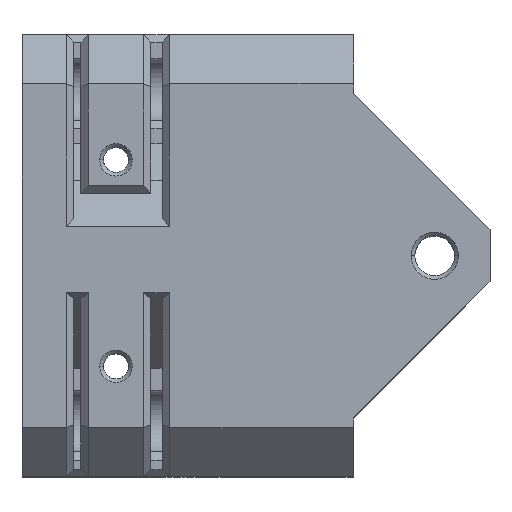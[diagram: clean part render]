
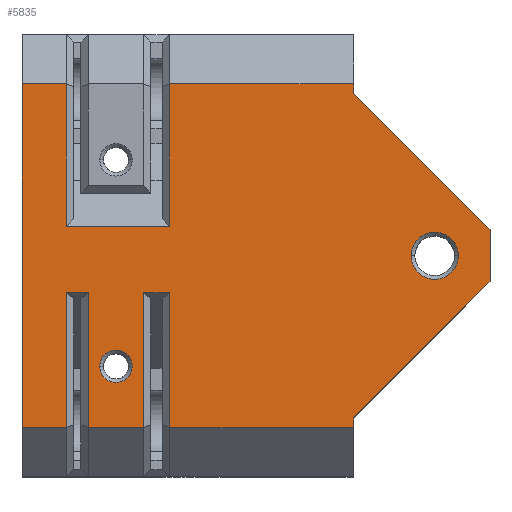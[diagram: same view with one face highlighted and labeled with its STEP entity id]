
A CAD part, top view. The second image highlights one B-rep face of the part: STEP entity #5835.
In plain terms, the highlighted planar face has unit normal (0, 0, 1).
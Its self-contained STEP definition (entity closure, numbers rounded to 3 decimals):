
#57=CARTESIAN_POINT('Line Origine',(7.25,23.331,29.25)) ;
#61=CARTESIAN_POINT('Vertex',(5.,23.331,29.25)) ;
#63=CARTESIAN_POINT('Vertex',(9.5,23.331,29.25)) ;
#105=CARTESIAN_POINT('Vertex',(-15.5,23.331,29.25)) ;
#108=CARTESIAN_POINT('Line Origine',(-7.75,23.331,29.25)) ;
#112=CARTESIAN_POINT('Vertex',(0.,23.331,29.25)) ;
#115=CARTESIAN_POINT('Line Origine',(2.5,23.331,29.25)) ;
#538=CARTESIAN_POINT('Line Origine',(-3.75,-23.331,29.25)) ;
#542=CARTESIAN_POINT('Vertex',(0.,-23.331,29.25)) ;
#544=CARTESIAN_POINT('Vertex',(-7.5,-23.331,29.25)) ;
#547=CARTESIAN_POINT('Line Origine',(-8.5,-23.331,29.25)) ;
#551=CARTESIAN_POINT('Vertex',(-9.5,-23.331,29.25)) ;
#554=CARTESIAN_POINT('Line Origine',(-12.5,-23.331,29.25)) ;
#558=CARTESIAN_POINT('Vertex',(-15.5,-23.331,29.25)) ;
#570=CARTESIAN_POINT('Vertex',(9.5,-23.331,29.25)) ;
#573=CARTESIAN_POINT('Line Origine',(4.75,-23.331,29.25)) ;
#869=CARTESIAN_POINT('Line Origine',(-15.5,-8.804,29.25)) ;
#873=CARTESIAN_POINT('Vertex',(-15.5,-5.,29.25)) ;
#899=CARTESIAN_POINT('Line Origine',(-17.25,-5.,29.25)) ;
#903=CARTESIAN_POINT('Vertex',(-19.,-5.,29.25)) ;
#938=CARTESIAN_POINT('Vertex',(-26.5,-5.,29.25)) ;
#941=CARTESIAN_POINT('Line Origine',(-28.,-5.,29.25)) ;
#945=CARTESIAN_POINT('Vertex',(-29.5,-5.,29.25)) ;
#1059=CARTESIAN_POINT('Line Origine',(-19.,-8.804,29.25)) ;
#1063=CARTESIAN_POINT('Vertex',(-19.,-23.331,29.25)) ;
#1091=CARTESIAN_POINT('Line Origine',(-22.75,-23.331,29.25)) ;
#1095=CARTESIAN_POINT('Vertex',(-26.5,-23.331,29.25)) ;
#1122=CARTESIAN_POINT('Line Origine',(-26.5,-8.804,29.25)) ;
#1150=CARTESIAN_POINT('Line Origine',(-29.5,-8.804,29.25)) ;
#1154=CARTESIAN_POINT('Vertex',(-29.5,-23.331,29.25)) ;
#1175=CARTESIAN_POINT('Line Origine',(-32.5,-23.331,29.25)) ;
#1179=CARTESIAN_POINT('Vertex',(-35.5,-23.331,29.25)) ;
#1218=CARTESIAN_POINT('Line Origine',(-35.5,0.,29.25)) ;
#1222=CARTESIAN_POINT('Vertex',(-35.5,23.331,29.25)) ;
#1297=CARTESIAN_POINT('Vertex',(-29.5,23.331,29.25)) ;
#1300=CARTESIAN_POINT('Line Origine',(-32.5,23.331,29.25)) ;
#1323=CARTESIAN_POINT('Line Origine',(-29.5,-8.804,29.25)) ;
#1327=CARTESIAN_POINT('Vertex',(-29.5,4.,29.25)) ;
#1360=CARTESIAN_POINT('Line Origine',(-13.,4.,29.25)) ;
#1364=CARTESIAN_POINT('Vertex',(-15.5,4.,29.25)) ;
#1399=CARTESIAN_POINT('Line Origine',(-15.5,-8.804,29.25)) ;
#1440=CARTESIAN_POINT('Vertex',(-20.55,-15.,29.25)) ;
#1443=CARTESIAN_POINT('Axis2P3D Location',(-22.75,-15.,29.25)) ;
#1447=CARTESIAN_POINT('Vertex',(-24.95,-15.,29.25)) ;
#1472=CARTESIAN_POINT('Axis2P3D Location',(-22.75,-15.,29.25)) ;
#3407=CARTESIAN_POINT('Axis2P3D Location',(-35.5,-23.331,29.25)) ;
#5061=CARTESIAN_POINT('Vertex',(9.5,22.,29.25)) ;
#5064=CARTESIAN_POINT('Line Origine',(18.75,12.75,29.25)) ;
#5068=CARTESIAN_POINT('Vertex',(28.,3.5,29.25)) ;
#5114=CARTESIAN_POINT('Line Origine',(28.,1.75,29.25)) ;
#5118=CARTESIAN_POINT('Vertex',(28.,0.,29.25)) ;
#5140=CARTESIAN_POINT('Line Origine',(28.,-1.75,29.25)) ;
#5144=CARTESIAN_POINT('Vertex',(28.,-3.5,29.25)) ;
#5181=CARTESIAN_POINT('Line Origine',(18.75,-12.75,29.25)) ;
#5185=CARTESIAN_POINT('Vertex',(9.5,-22.,29.25)) ;
#5497=CARTESIAN_POINT('Line Origine',(9.5,-22.666,29.25)) ;
#5502=CARTESIAN_POINT('Line Origine',(9.5,22.666,29.25)) ;
#5813=CARTESIAN_POINT('Axis2P3D Location',(20.5,0.,29.25)) ;
#5817=CARTESIAN_POINT('Vertex',(17.3,0.,29.25)) ;
#5819=CARTESIAN_POINT('Vertex',(23.7,0.,29.25)) ;
#5822=CARTESIAN_POINT('Axis2P3D Location',(20.5,0.,29.25)) ;
#58=DIRECTION('Vector Direction',(1.,0.,0.)) ;
#109=DIRECTION('Vector Direction',(1.,0.,0.)) ;
#116=DIRECTION('Vector Direction',(1.,0.,0.)) ;
#539=DIRECTION('Vector Direction',(-1.,0.,0.)) ;
#548=DIRECTION('Vector Direction',(-1.,0.,0.)) ;
#555=DIRECTION('Vector Direction',(1.,0.,0.)) ;
#574=DIRECTION('Vector Direction',(-1.,0.,0.)) ;
#870=DIRECTION('Vector Direction',(0.,1.,0.)) ;
#900=DIRECTION('Vector Direction',(-1.,0.,0.)) ;
#942=DIRECTION('Vector Direction',(-1.,0.,0.)) ;
#1060=DIRECTION('Vector Direction',(0.,1.,0.)) ;
#1092=DIRECTION('Vector Direction',(1.,0.,0.)) ;
#1123=DIRECTION('Vector Direction',(0.,-1.,0.)) ;
#1151=DIRECTION('Vector Direction',(0.,-1.,0.)) ;
#1176=DIRECTION('Vector Direction',(1.,0.,0.)) ;
#1219=DIRECTION('Vector Direction',(0.,1.,0.)) ;
#1301=DIRECTION('Vector Direction',(1.,0.,0.)) ;
#1324=DIRECTION('Vector Direction',(0.,-1.,0.)) ;
#1361=DIRECTION('Vector Direction',(1.,0.,0.)) ;
#1400=DIRECTION('Vector Direction',(0.,1.,0.)) ;
#1444=DIRECTION('Axis2P3D Direction',(0.,0.,-1.)) ;
#1473=DIRECTION('Axis2P3D Direction',(0.,0.,-1.)) ;
#3408=DIRECTION('Axis2P3D Direction',(0.,0.,-1.)) ;
#3409=DIRECTION('Axis2P3D XDirection',(0.,1.,0.)) ;
#5065=DIRECTION('Vector Direction',(0.707,-0.707,0.)) ;
#5115=DIRECTION('Vector Direction',(0.,1.,0.)) ;
#5141=DIRECTION('Vector Direction',(0.,1.,0.)) ;
#5182=DIRECTION('Vector Direction',(0.707,0.707,0.)) ;
#5498=DIRECTION('Vector Direction',(0.,1.,0.)) ;
#5503=DIRECTION('Vector Direction',(0.,1.,0.)) ;
#5814=DIRECTION('Axis2P3D Direction',(0.,0.,-1.)) ;
#5823=DIRECTION('Axis2P3D Direction',(0.,0.,-1.)) ;
#1445=AXIS2_PLACEMENT_3D('Circle Axis2P3D',#1443,#1444,$) ;
#1474=AXIS2_PLACEMENT_3D('Circle Axis2P3D',#1472,#1473,$) ;
#3410=AXIS2_PLACEMENT_3D('Plane Axis2P3D',#3407,#3408,#3409) ;
#5815=AXIS2_PLACEMENT_3D('Circle Axis2P3D',#5813,#5814,$) ;
#5824=AXIS2_PLACEMENT_3D('Circle Axis2P3D',#5822,#5823,$) ;
#5786=ORIENTED_EDGE('',*,*,#546,.F.) ;
#5787=ORIENTED_EDGE('',*,*,#577,.F.) ;
#5788=ORIENTED_EDGE('',*,*,#5501,.F.) ;
#5789=ORIENTED_EDGE('',*,*,#5187,.T.) ;
#5790=ORIENTED_EDGE('',*,*,#5146,.T.) ;
#5791=ORIENTED_EDGE('',*,*,#5120,.T.) ;
#5792=ORIENTED_EDGE('',*,*,#5070,.F.) ;
#5793=ORIENTED_EDGE('',*,*,#5506,.F.) ;
#5794=ORIENTED_EDGE('',*,*,#65,.F.) ;
#5795=ORIENTED_EDGE('',*,*,#119,.F.) ;
#5796=ORIENTED_EDGE('',*,*,#114,.F.) ;
#5797=ORIENTED_EDGE('',*,*,#1403,.T.) ;
#5798=ORIENTED_EDGE('',*,*,#1366,.T.) ;
#5799=ORIENTED_EDGE('',*,*,#1329,.T.) ;
#5800=ORIENTED_EDGE('',*,*,#1304,.F.) ;
#5801=ORIENTED_EDGE('',*,*,#1224,.F.) ;
#5802=ORIENTED_EDGE('',*,*,#1181,.T.) ;
#5803=ORIENTED_EDGE('',*,*,#1156,.T.) ;
#5804=ORIENTED_EDGE('',*,*,#947,.T.) ;
#5805=ORIENTED_EDGE('',*,*,#1126,.T.) ;
#5806=ORIENTED_EDGE('',*,*,#1097,.T.) ;
#5807=ORIENTED_EDGE('',*,*,#1065,.T.) ;
#5808=ORIENTED_EDGE('',*,*,#905,.T.) ;
#5809=ORIENTED_EDGE('',*,*,#875,.T.) ;
#5810=ORIENTED_EDGE('',*,*,#560,.T.) ;
#5811=ORIENTED_EDGE('',*,*,#553,.F.) ;
#5828=ORIENTED_EDGE('',*,*,#5821,.T.) ;
#5829=ORIENTED_EDGE('',*,*,#5826,.T.) ;
#5832=ORIENTED_EDGE('',*,*,#1476,.T.) ;
#5833=ORIENTED_EDGE('',*,*,#1449,.T.) ;
#5830=FACE_BOUND('',#5827,.T.) ;
#5834=FACE_BOUND('',#5831,.T.) ;
#59=VECTOR('Line Direction',#58,1.) ;
#110=VECTOR('Line Direction',#109,1.) ;
#117=VECTOR('Line Direction',#116,1.) ;
#540=VECTOR('Line Direction',#539,1.) ;
#549=VECTOR('Line Direction',#548,1.) ;
#556=VECTOR('Line Direction',#555,1.) ;
#575=VECTOR('Line Direction',#574,1.) ;
#871=VECTOR('Line Direction',#870,1.) ;
#901=VECTOR('Line Direction',#900,1.) ;
#943=VECTOR('Line Direction',#942,1.) ;
#1061=VECTOR('Line Direction',#1060,1.) ;
#1093=VECTOR('Line Direction',#1092,1.) ;
#1124=VECTOR('Line Direction',#1123,1.) ;
#1152=VECTOR('Line Direction',#1151,1.) ;
#1177=VECTOR('Line Direction',#1176,1.) ;
#1220=VECTOR('Line Direction',#1219,1.) ;
#1302=VECTOR('Line Direction',#1301,1.) ;
#1325=VECTOR('Line Direction',#1324,1.) ;
#1362=VECTOR('Line Direction',#1361,1.) ;
#1401=VECTOR('Line Direction',#1400,1.) ;
#5066=VECTOR('Line Direction',#5065,1.) ;
#5116=VECTOR('Line Direction',#5115,1.) ;
#5142=VECTOR('Line Direction',#5141,1.) ;
#5183=VECTOR('Line Direction',#5182,1.) ;
#5499=VECTOR('Line Direction',#5498,1.) ;
#5504=VECTOR('Line Direction',#5503,1.) ;
#5835=ADVANCED_FACE('PartBody',(#5812,#5830,#5834),#3411,.F.) ;
#1446=CIRCLE('generated circle',#1445,2.2) ;
#1475=CIRCLE('generated circle',#1474,2.2) ;
#5816=CIRCLE('generated circle',#5815,3.2) ;
#5825=CIRCLE('generated circle',#5824,3.2) ;
#65=EDGE_CURVE('',#62,#64,#60,.T.) ;
#114=EDGE_CURVE('',#106,#113,#111,.T.) ;
#119=EDGE_CURVE('',#113,#62,#118,.T.) ;
#546=EDGE_CURVE('',#543,#545,#541,.T.) ;
#553=EDGE_CURVE('',#545,#552,#550,.T.) ;
#560=EDGE_CURVE('',#559,#552,#557,.T.) ;
#577=EDGE_CURVE('',#571,#543,#576,.T.) ;
#875=EDGE_CURVE('',#874,#559,#872,.F.) ;
#905=EDGE_CURVE('',#904,#874,#902,.F.) ;
#947=EDGE_CURVE('',#946,#939,#944,.F.) ;
#1065=EDGE_CURVE('',#1064,#904,#1062,.T.) ;
#1097=EDGE_CURVE('',#1096,#1064,#1094,.T.) ;
#1126=EDGE_CURVE('',#939,#1096,#1125,.T.) ;
#1156=EDGE_CURVE('',#1155,#946,#1153,.F.) ;
#1181=EDGE_CURVE('',#1180,#1155,#1178,.T.) ;
#1224=EDGE_CURVE('',#1180,#1223,#1221,.T.) ;
#1304=EDGE_CURVE('',#1223,#1298,#1303,.T.) ;
#1329=EDGE_CURVE('',#1328,#1298,#1326,.F.) ;
#1366=EDGE_CURVE('',#1365,#1328,#1363,.F.) ;
#1403=EDGE_CURVE('',#106,#1365,#1402,.F.) ;
#1449=EDGE_CURVE('',#1448,#1441,#1446,.T.) ;
#1476=EDGE_CURVE('',#1441,#1448,#1475,.T.) ;
#5070=EDGE_CURVE('',#5062,#5069,#5067,.T.) ;
#5120=EDGE_CURVE('',#5119,#5069,#5117,.T.) ;
#5146=EDGE_CURVE('',#5145,#5119,#5143,.T.) ;
#5187=EDGE_CURVE('',#5186,#5145,#5184,.T.) ;
#5501=EDGE_CURVE('',#5186,#571,#5500,.F.) ;
#5506=EDGE_CURVE('',#64,#5062,#5505,.F.) ;
#5821=EDGE_CURVE('',#5818,#5820,#5816,.T.) ;
#5826=EDGE_CURVE('',#5820,#5818,#5825,.T.) ;
#5785=EDGE_LOOP('',(#5786,#5787,#5788,#5789,#5790,#5791,#5792,#5793,#5794,#5795,#5796,#5797,#5798,#5799,#5800,#5801,#5802,#5803,#5804,#5805,#5806,#5807,#5808,#5809,#5810,#5811)) ;
#5827=EDGE_LOOP('',(#5828,#5829)) ;
#5831=EDGE_LOOP('',(#5832,#5833)) ;
#5812=FACE_OUTER_BOUND('',#5785,.T.) ;
#60=LINE('Line',#57,#59) ;
#111=LINE('Line',#108,#110) ;
#118=LINE('Line',#115,#117) ;
#541=LINE('Line',#538,#540) ;
#550=LINE('Line',#547,#549) ;
#557=LINE('Line',#554,#556) ;
#576=LINE('Line',#573,#575) ;
#872=LINE('Line',#869,#871) ;
#902=LINE('Line',#899,#901) ;
#944=LINE('Line',#941,#943) ;
#1062=LINE('Line',#1059,#1061) ;
#1094=LINE('Line',#1091,#1093) ;
#1125=LINE('Line',#1122,#1124) ;
#1153=LINE('Line',#1150,#1152) ;
#1178=LINE('Line',#1175,#1177) ;
#1221=LINE('Line',#1218,#1220) ;
#1303=LINE('Line',#1300,#1302) ;
#1326=LINE('Line',#1323,#1325) ;
#1363=LINE('Line',#1360,#1362) ;
#1402=LINE('Line',#1399,#1401) ;
#5067=LINE('Line',#5064,#5066) ;
#5117=LINE('Line',#5114,#5116) ;
#5143=LINE('Line',#5140,#5142) ;
#5184=LINE('Line',#5181,#5183) ;
#5500=LINE('Line',#5497,#5499) ;
#5505=LINE('Line',#5502,#5504) ;
#3411=PLANE('Plane',#3410) ;
#62=VERTEX_POINT('',#61) ;
#64=VERTEX_POINT('',#63) ;
#106=VERTEX_POINT('',#105) ;
#113=VERTEX_POINT('',#112) ;
#543=VERTEX_POINT('',#542) ;
#545=VERTEX_POINT('',#544) ;
#552=VERTEX_POINT('',#551) ;
#559=VERTEX_POINT('',#558) ;
#571=VERTEX_POINT('',#570) ;
#874=VERTEX_POINT('',#873) ;
#904=VERTEX_POINT('',#903) ;
#939=VERTEX_POINT('',#938) ;
#946=VERTEX_POINT('',#945) ;
#1064=VERTEX_POINT('',#1063) ;
#1096=VERTEX_POINT('',#1095) ;
#1155=VERTEX_POINT('',#1154) ;
#1180=VERTEX_POINT('',#1179) ;
#1223=VERTEX_POINT('',#1222) ;
#1298=VERTEX_POINT('',#1297) ;
#1328=VERTEX_POINT('',#1327) ;
#1365=VERTEX_POINT('',#1364) ;
#1441=VERTEX_POINT('',#1440) ;
#1448=VERTEX_POINT('',#1447) ;
#5062=VERTEX_POINT('',#5061) ;
#5069=VERTEX_POINT('',#5068) ;
#5119=VERTEX_POINT('',#5118) ;
#5145=VERTEX_POINT('',#5144) ;
#5186=VERTEX_POINT('',#5185) ;
#5818=VERTEX_POINT('',#5817) ;
#5820=VERTEX_POINT('',#5819) ;
